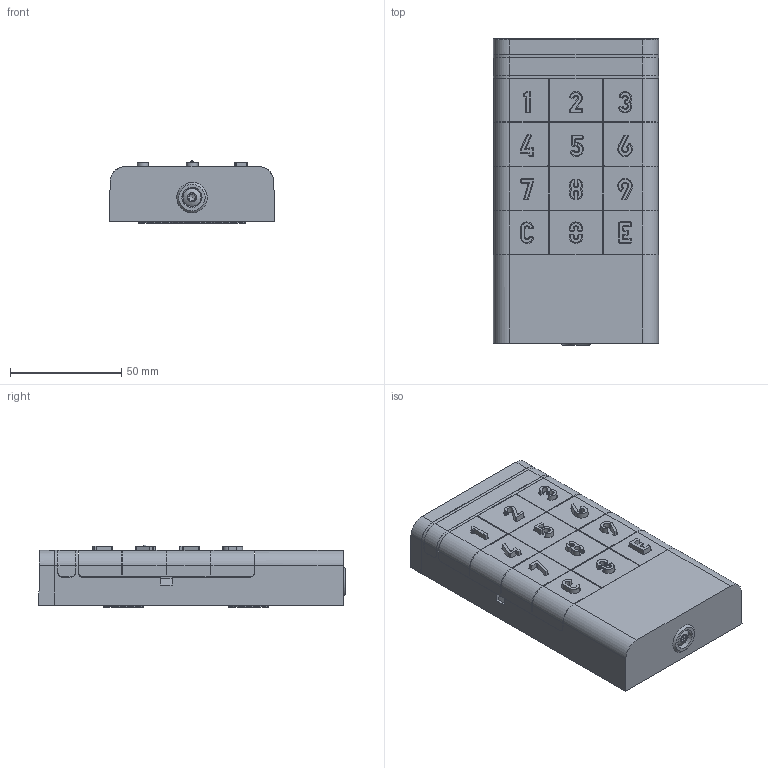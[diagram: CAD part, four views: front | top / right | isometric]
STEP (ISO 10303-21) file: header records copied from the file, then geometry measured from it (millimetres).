
FILE_DESCRIPTION(/* description */ ('Unknown','CAx-IF Rec.Pracs.---Representation and Presentation of Product Manufacturing Information (PMI)---4.0---2014-10-13','CAx-IF Rec.Pracs.---3D Tessellated Geometry---0.4---2014-09-14','2;1'),/* implementation_level */ '2;1');
FILE_NAME(/* name */ 'DIGIRAD N',/* time_stamp */ '2023-07-10T17:02:14+02:00',/* author */ ('Unknown'),/* organization */ ('Unknown'),/* preprocessor_version */ 'ST-DEVELOPER v16.7',/* originating_system */ 'DEX',/* authorisation */ $);
FILE_SCHEMA (('AP242_MANAGED_MODEL_BASED_3D_ENGINEERING_MIM_LF { 1 0 10303 442 20130219 1 4 }'));
Products named in the file (13): 663320; 1903_A252_V04_oa_0; 1903_A251_V01; 322650; 322650 P1; 322650 P2; 322660; 322670; 1903_A254_V01_oa_1; 440250_oa_2; 322700; 132502; 322710
Assembly tree (12 placements, depth 5):
  663320
    1903_A252_V04_oa_0
      1903_A251_V01
        322650
          322650 P1
          322650 P2
        322660
      322670
    1903_A254_V01_oa_1
      440250_oa_2
        322700
    132502
    322710
Bounding box: 74.03 x 137.46 x 28.1 mm (x, y, z)
Volume: 124301.9 mm3; surface area: 96423.6 mm2
Topology: 18 solids, 18 shells, 3780 faces, 10128 edges, 6622 vertices
Faces by surface type: plane 2166, cylinder 1276, bspline 143, cone 134, torus 58, sphere 3
Full cylindrical faces by diameter (mm): 3.542 x1, 3.99 x1, 8 x1
Entity records: 136408 total; most frequent: CARTESIAN_POINT 34008, ORIENTED_EDGE 20058, DIRECTION 19604, EDGE_CURVE 10029, LINE 6898, VECTOR 6898, VERTEX_POINT 6596, AXIS2_PLACEMENT_3D 6353
